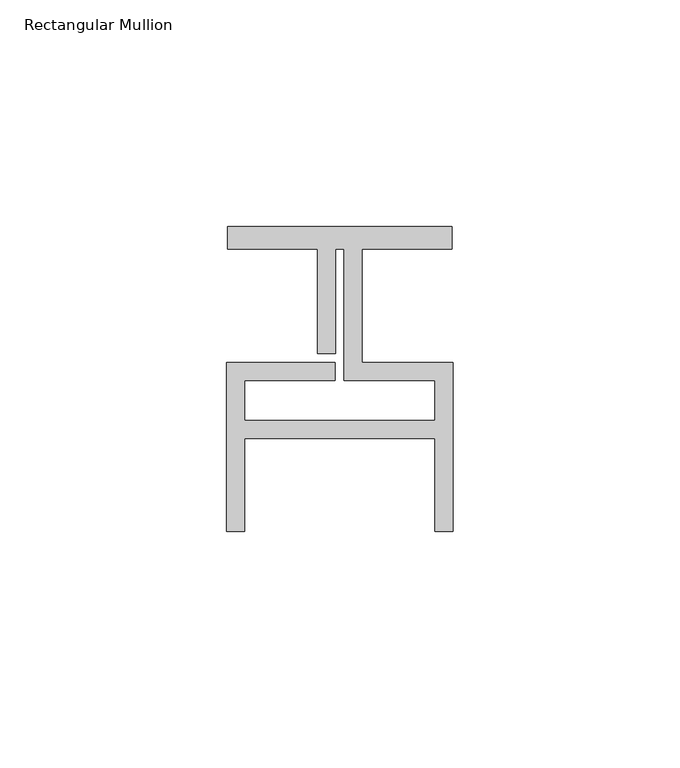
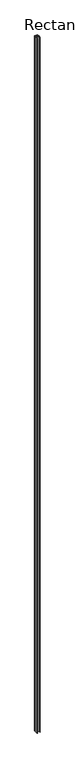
"""IFC4 building model written with IfcOpenShell, lengths in millimetres: member geometry, Rectangular Mullion : Reynaers_CW-50_Mullion-Transom_Horizontal_5mm_Facecap-03."""

from ifc_helpers import new_model, si_unit, frame, origin, place, context, project, spatial, polyline, outline, extrude, source, transform, mapped, element, save


def rectangular_mullion_7da34c89(model_context):
    return source(origin(), model_context, "Body", "SweptSolid", [
        extrude(outline(polyline([(-24.8004059, 17.5), (24.8004059, 17.5), (24.8004059, 12.5), (4.9004059, 12.5), (4.9004059, -12.5), (24.994845, -12.5), (24.994845, -49.8), (20.994845, -49.8), (20.994845, -29.3268728), (-20.994845, -29.3268728), (-20.994845, -49.8), (-24.994845, -49.8), (-24.994845, -12.5), (-1.0995941, -12.5), (-1.0995941, -16.5), (-20.994845, -16.5), (-20.994845, -25.3268728), (20.994845, -25.3268728), (20.994845, -16.5), (0.9004059, -16.5), (0.9004059, 12.5), (-0.9004059, 12.5), (-0.9004059, -10.5), (-4.9004059, -10.5), (-4.9004059, 12.5), (-24.8004059, 12.5), (-24.8004059, 17.5)])), frame((0.0, 0.0, -12000.0), z_axis=(0.0, 0.0, 1.0), x_axis=(1.0, 0.0, 0.0)), (0.0, 0.0, 1.0), 12000.0),
    ])


if __name__ == "__main__":
    model = new_model("IFC4")
    model_context = context("Model", 3, world=origin())
    ifc_project = project(units=[si_unit("LENGTHUNIT", "METRE", prefix="MILLI")], contexts=[model_context])
    site = spatial("IfcSite", under=ifc_project)
    building = spatial("IfcBuilding", under=site)
    placement = place(None, origin())
    rectangular_mullion_shape = rectangular_mullion_7da34c89(model_context)
    element("IfcMember", 1, ObjectType="Rectangular Mullion : Reynaers_CW-50_Mullion-Transom_Horizontal_5mm_Facecap-03", at=placement, inside=building, context=model_context, shape_type="MappedRepresentation", body=[
        mapped(rectangular_mullion_shape, transform((0.0, 0.0, 0.0), x_axis=(1.0, 0.0, 0.0), y_axis=(0.0, 1.0, 0.0), z_axis=(0.0, 0.0, 1.0))),
    ])
    save(model, "model.ifc")
